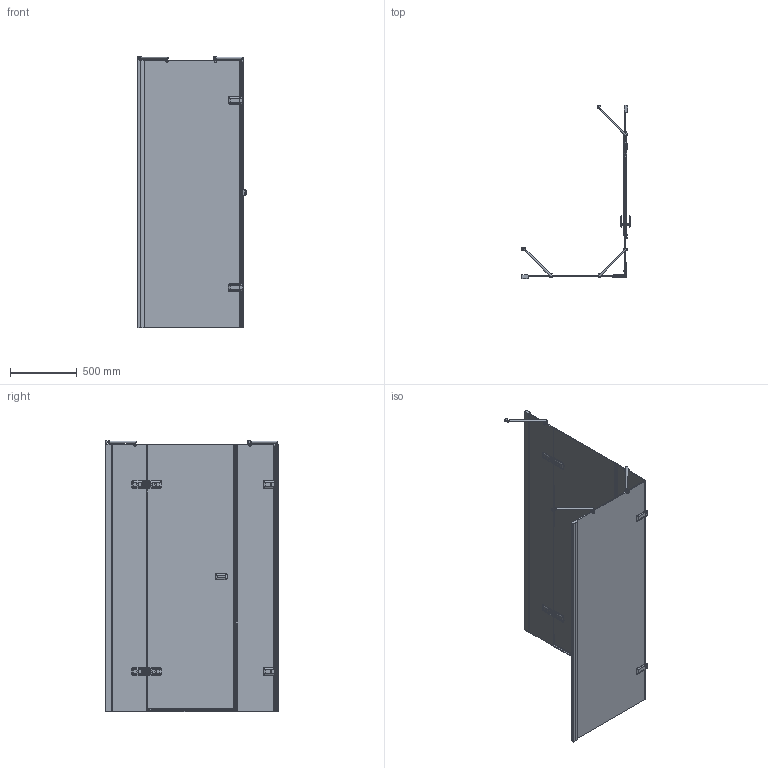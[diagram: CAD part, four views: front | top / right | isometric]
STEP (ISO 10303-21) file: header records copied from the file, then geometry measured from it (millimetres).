
FILE_DESCRIPTION(/* description */ (''),/* implementation_level */ '2;1');
FILE_NAME(/* name */ 'D:\4\98\TREND RECTAN GK-864B1P\TREND RECTAN GK-864B1P правая модель\TREND RECTAN GK-864B1P ПРАВАЯ-3D.stp',/* time_stamp */ '2018-06-04T12:17:36+03:00',/* author */ ('ChechurovS'),/* organization */ (''),/* preprocessor_version */ 'ST-DEVELOPER v15.2',/* originating_system */ 'Autodesk Inventor 2014',/* authorisation */ '');
FILE_SCHEMA (('CONFIG_CONTROL_DESIGN'));
Products named in the file (1): TREND RECTAN GK-864B1P ПРАВАЯ-
3D
Bounding box: 812.64 x 1293.94 x 2031.5 mm (x, y, z)
Volume: 34242052.3 mm3; surface area: 8858189.7 mm2
Topology: 13 solids, 13 shells, 1526 faces, 4027 edges, 2493 vertices
Faces by surface type: plane 901, cylinder 377, bspline 164, torus 44, sphere 22, cone 18
Full cylindrical faces by diameter (mm): 6 x2, 9 x8, 12 x4, 13 x2, 15 x3, 20 x6, 26 x2
Entity records: 67443 total; most frequent: CARTESIAN_POINT 29475, ORIENTED_EDGE 7740, DIRECTION 7276, EDGE_CURVE 3870, VERTEX_POINT 2447, AXIS2_PLACEMENT_3D 2437, LINE 2402, VECTOR 2402
